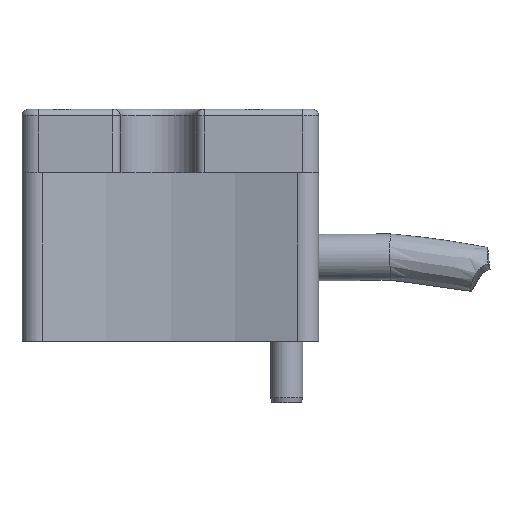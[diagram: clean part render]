
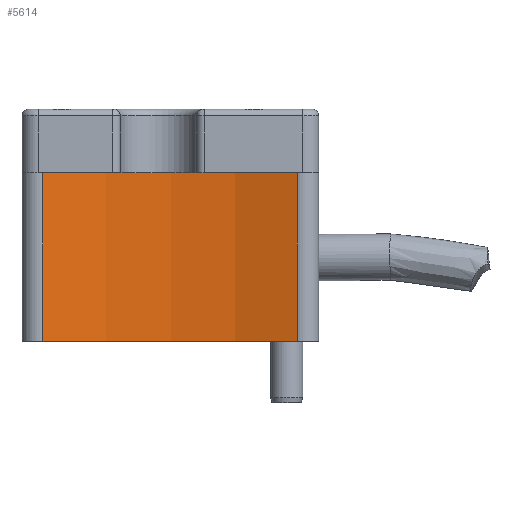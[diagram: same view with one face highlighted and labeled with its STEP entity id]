
A CAD part, front view. The second image highlights one B-rep face of the part: STEP entity #5614.
In plain terms, the highlighted cylindrical face has radius 50.2 mm (diameter 100.4 mm), a partial arc.
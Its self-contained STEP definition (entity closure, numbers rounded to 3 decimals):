
#436=LINE('',#13602,#701);
#437=LINE('',#13606,#702);
#701=VECTOR('',#6936,10.);
#702=VECTOR('',#6939,10.);
#898=CYLINDRICAL_SURFACE('',#6082,50.2);
#1077=FACE_OUTER_BOUND('',#1435,.T.);
#1435=EDGE_LOOP('',(#3948,#3949,#3950,#3951));
#1866=CIRCLE('',#6083,50.2);
#1867=CIRCLE('',#6084,50.2);
#2458=VERTEX_POINT('',#13600);
#2459=VERTEX_POINT('',#13601);
#2460=VERTEX_POINT('',#13603);
#2461=VERTEX_POINT('',#13605);
#3056=EDGE_CURVE('',#2458,#2459,#436,.T.);
#3057=EDGE_CURVE('',#2459,#2460,#1866,.T.);
#3058=EDGE_CURVE('',#2460,#2461,#437,.T.);
#3059=EDGE_CURVE('',#2461,#2458,#1867,.T.);
#3948=ORIENTED_EDGE('',*,*,#3056,.T.);
#3949=ORIENTED_EDGE('',*,*,#3057,.T.);
#3950=ORIENTED_EDGE('',*,*,#3058,.T.);
#3951=ORIENTED_EDGE('',*,*,#3059,.T.);
#5614=ADVANCED_FACE('',(#1077),#898,.F.);
#6082=AXIS2_PLACEMENT_3D('',#13599,#6934,#6935);
#6083=AXIS2_PLACEMENT_3D('',#13604,#6937,#6938);
#6084=AXIS2_PLACEMENT_3D('',#13607,#6940,#6941);
#6934=DIRECTION('center_axis',(0.,0.,
1.));
#6935=DIRECTION('ref_axis',(1.,0.,0.));
#6936=DIRECTION('',(0.,0.,1.));
#6937=DIRECTION('center_axis',(0.,0.,
1.));
#6938=DIRECTION('ref_axis',(1.,0.,0.));
#6939=DIRECTION('',(0.,0.,-1.));
#6940=DIRECTION('center_axis',(0.,0.,
-1.));
#6941=DIRECTION('ref_axis',(1.,0.,0.));
#13599=CARTESIAN_POINT('Origin',(0.,0.,
21.05));
#13600=CARTESIAN_POINT('',(17.31,47.121,0.));
#13601=CARTESIAN_POINT('',(17.31,47.121,21.05));
#13602=CARTESIAN_POINT('',(17.31,47.121,21.05));
#13603=CARTESIAN_POINT('',(-14.425,48.083,21.05));
#13604=CARTESIAN_POINT('Origin',(0.,0.,
21.05));
#13605=CARTESIAN_POINT('',(-14.425,48.083,0.));
#13606=CARTESIAN_POINT('',(-14.425,48.083,21.05));
#13607=CARTESIAN_POINT('Origin',(0.,0.,
0.));
